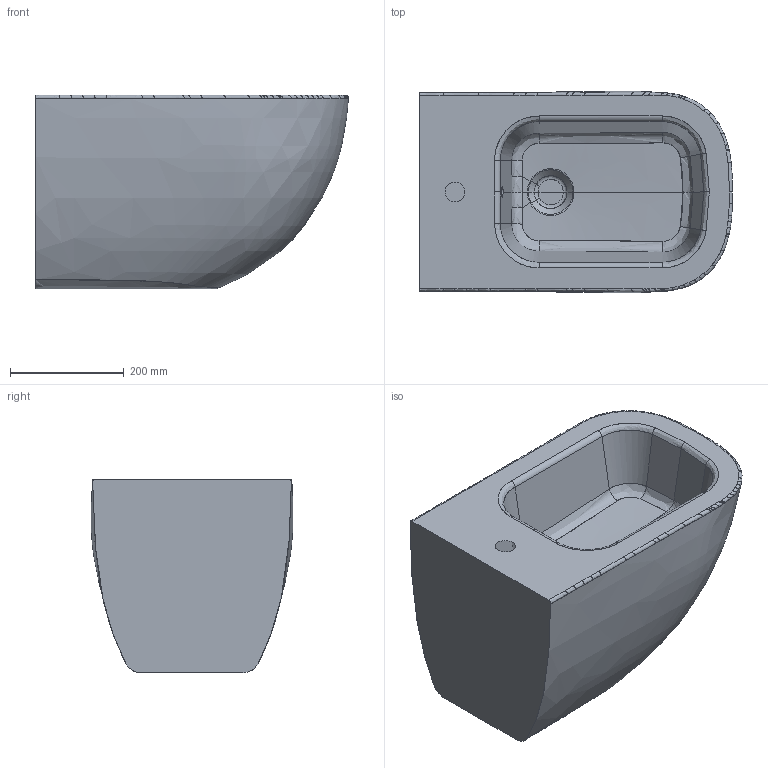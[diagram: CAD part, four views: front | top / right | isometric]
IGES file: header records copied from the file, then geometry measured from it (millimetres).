
Start section: START RECORD GO HERE.
Global section: file name: 6112_bidet sosp plus.igs; native system: DASSAULT SYSTEMES CATIA V5 R19 - www.3ds.com; preprocessor: CATIA Version 5 Release 19 SP 5 ; author: gioge; organization: LAPTOP-G94B6G74; date: 20200701.094727; units: millimetre
Bounding box: 548.99 x 353.75 x 340 mm (x, y, z)
Surface area: 881031.6 mm2 (no closed solid volume)
Topology: 0 solids, 0 shells, 123 faces, 631 edges, 634 vertices
Faces by surface type: bspline 117, plane 6
